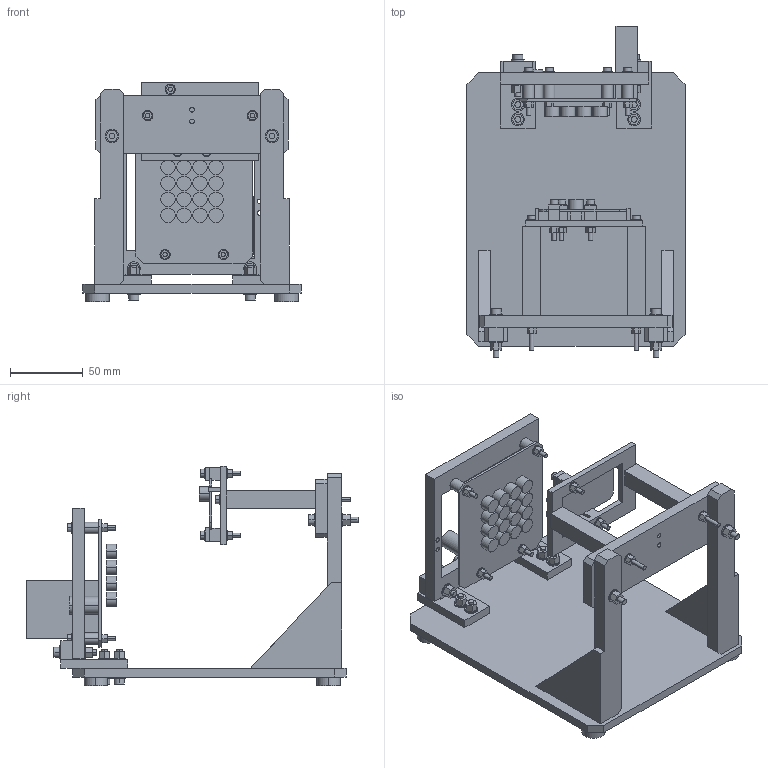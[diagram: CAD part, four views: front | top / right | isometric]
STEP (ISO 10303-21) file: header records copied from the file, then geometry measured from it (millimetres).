
FILE_DESCRIPTION (( 'STEP AP203' ), '1' );
FILE_NAME ('Vertical_receiver_assembly.step', '2026-10-07T08:37:16', ( '' ), ( '' ), 'SwSTEP 2.0', 'SolidWorks 2025', '' );
FILE_SCHEMA (( 'CONFIG_CONTROL_DESIGN' ));
Length unit declared in the file: millimetre
Products named in the file (24): 10_receiver_edge_tray; REF_M4x20_screw; REF_receiver_U1; 05_pcb_standoff_10; 03_fixed_base; REF_16_emitters; REF_M3_washer; 07_vertical_tx_frame; 09_fixed_receiver_arm; REF_M3_nylock; 11_receiver_M3_edge_clip; REF_rubber_foot_16x6; REF_M3x90_screw; REF_pcb_80x88; REF_M4x25_screw; REF_tx_rear_clearances; 08_tx_fixed_shoe; REF_M3x25_screw; REF_receiver_pcb; Vertical_receiver_assembly; REF_M4_nylock; REF_M3x30_screw; REF_M4x30_screw; REF_M4_washer
Assembly tree (90 placements, depth 2):
  Vertical_receiver_assembly
    03_fixed_base
    07_vertical_tx_frame
    REF_pcb_80x88
    REF_16_emitters
    REF_tx_rear_clearances
    05_pcb_standoff_10  x4
    08_tx_fixed_shoe  x2
    REF_rubber_foot_16x6  x4
    REF_M4x20_screw  x4
    REF_M4_washer  x16
    REF_M4_nylock  x8
    REF_M4x25_screw  x2
    REF_M3x30_screw  x4
    REF_M3_washer  x18
    REF_M3_nylock  x9
    09_fixed_receiver_arm
    10_receiver_edge_tray
    REF_receiver_pcb
    REF_receiver_U1
    11_receiver_M3_edge_clip  x3
    REF_M4x30_screw  x2
    REF_M3x90_screw  x2
    REF_M3x25_screw  x3
Bounding box: 150 x 228.2 x 151 mm (x, y, z)
Volume: 431405.7 mm3; surface area: 186834.4 mm2
Topology: 106 solids, 106 shells, 877 faces, 1928 edges, 1284 vertices
Faces by surface type: plane 495, cylinder 382
Entity records: 16024 total; most frequent: DIRECTION 2176, CARTESIAN_POINT 1990, ORIENTED_EDGE 1808, EDGE_CURVE 904, AXIS2_PLACEMENT_3D 788, VERTEX_POINT 602, VECTOR 600, LINE 600
